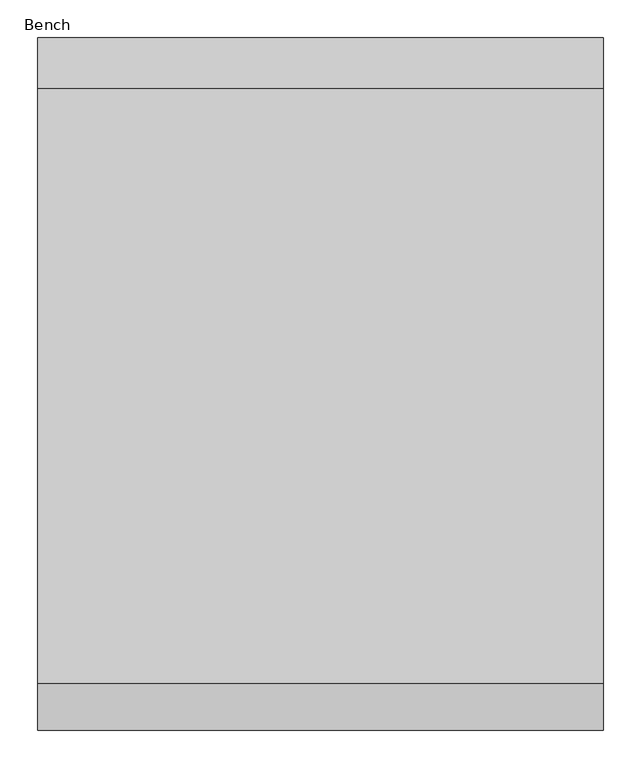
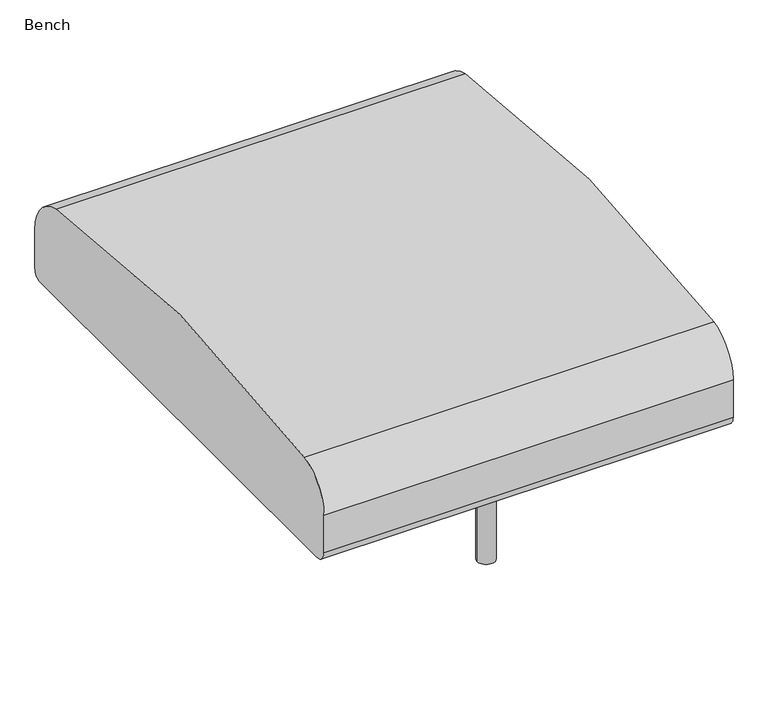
"""IFC4 building model written with IfcOpenShell, lengths in millimetres: furniture geometry, Coalesse_AM_Seating_LoungeChair_Sistema_LegBase_OneSeatConnector : Bench."""

from ifc_helpers import new_model, si_unit, point, frame, frame_2d, origin, origin_with_axes, place, context, project, spatial, polyline, circle_curve, trimmed, segment, composite_curve, outline, extrude, source, transform, mapped, element, save


def bench_6cfa080e(model_context):
    return source(origin(), model_context, "Body", "SweptSolid", [
        extrude(outline(composite_curve([segment(trimmed(circle_curve(frame_2d((0.0, 335.9943389)), 6.096), [point((-6.096, 335.9943389))], [point((6.096, 335.9943389))], False, "CARTESIAN"), True, "CONTINUOUS"), segment(trimmed(circle_curve(frame_2d((0.0, 335.9943389)), 6.096), [point((6.096, 335.9943389))], [point((-6.096, 335.9943389))], False, "CARTESIAN"), True, "CONTINUOUS")], self_intersect=False)), origin_with_axes(), (0.0, 0.0, 1.0), 4.3662291),
        extrude(outline(composite_curve([segment(trimmed(circle_curve(frame_2d((0.0, -327.2630889)), 6.096), [point((-6.096, -327.2630889))], [point((6.096, -327.2630889))], False, "CARTESIAN"), True, "CONTINUOUS"), segment(trimmed(circle_curve(frame_2d((0.0, -327.2630889)), 6.096), [point((6.096, -327.2630889))], [point((-6.096, -327.2630889))], False, "CARTESIAN"), True, "CONTINUOUS")], self_intersect=False)), origin_with_axes(), (0.0, 0.0, 1.0), 4.3662291),
        extrude(outline(composite_curve([segment(trimmed(circle_curve(frame_2d((157.0399209, -9.5318523)), 3.048), [point((157.0399209, -12.5798523))], [point((153.9919209, -9.5318523))], False, "CARTESIAN"), True, "CONTINUOUS"), segment(polyline([(153.9919209, -9.5318523), (153.9919209, 9.7252509)]), True, "CONTINUOUS"), segment(trimmed(circle_curve(frame_2d((157.1249936, 9.7252509)), 3.1330728), [point((153.9919209, 9.7252509))], [point((157.1249936, 12.8583237))], False, "CARTESIAN"), True, "CONTINUOUS"), segment(polyline([(157.1249936, 12.8583237), (201.7356243, 12.8583237)]), True, "CONTINUOUS"), segment(trimmed(circle_curve(frame_2d((201.7356243, 9.8103237)), 3.048), [point((201.7356243, 12.8583237))], [point((204.7836243, 9.8103237))], False, "CARTESIAN"), True, "CONTINUOUS"), segment(polyline([(204.7836243, 9.8103237), (204.7836243, -9.5318523)]), True, "CONTINUOUS"), segment(trimmed(circle_curve(frame_2d((201.7356243, -9.5318523)), 3.048), [point((204.7836243, -9.5318523))], [point((201.7356243, -12.5798523))], False, "CARTESIAN"), True, "CONTINUOUS"), segment(polyline([(201.7356243, -12.5798523), (157.0399209, -12.5798523)]), True, "CONTINUOUS")], self_intersect=False)), frame((0.0, 222.3519802, 0.0), z_axis=(0.0, 1.0, 0.0), x_axis=(0.0, 0.0, 1.0)), (0.0, 0.0, 1.0), 92.6273161),
        extrude(outline(composite_curve([segment(trimmed(circle_curve(frame_2d((157.0399209, -9.5318523)), 3.048), [point((157.0399209, -12.5798523))], [point((153.9919209, -9.5318523))], False, "CARTESIAN"), True, "CONTINUOUS"), segment(polyline([(153.9919209, -9.5318523), (153.9919209, 9.7252509)]), True, "CONTINUOUS"), segment(trimmed(circle_curve(frame_2d((157.1249936, 9.7252509)), 3.1330728), [point((153.9919209, 9.7252509))], [point((157.1249936, 12.8583237))], False, "CARTESIAN"), True, "CONTINUOUS"), segment(polyline([(157.1249936, 12.8583237), (201.7356243, 12.8583237)]), True, "CONTINUOUS"), segment(trimmed(circle_curve(frame_2d((201.7356243, 9.8103237)), 3.048), [point((201.7356243, 12.8583237))], [point((204.7836243, 9.8103237))], False, "CARTESIAN"), True, "CONTINUOUS"), segment(polyline([(204.7836243, 9.8103237), (204.7836243, -9.5318523)]), True, "CONTINUOUS"), segment(trimmed(circle_curve(frame_2d((201.7356243, -9.5318523)), 3.048), [point((204.7836243, -9.5318523))], [point((201.7356243, -12.5798523))], False, "CARTESIAN"), True, "CONTINUOUS"), segment(polyline([(201.7356243, -12.5798523), (157.0399209, -12.5798523)]), True, "CONTINUOUS")], self_intersect=False)), frame((0.0, -314.9792963, 0.0), z_axis=(0.0, 1.0, 0.0), x_axis=(0.0, 0.0, 1.0)), (0.0, 0.0, 1.0), 92.6273161),
        extrude(outline(composite_curve([segment(polyline([(179.3836606, 22.6505283), (179.3836606, -22.0535686)]), True, "CONTINUOUS"), segment(trimmed(circle_curve(frame_2d((176.3356606, -22.0535686)), 3.048), [point((179.3836606, -22.0535686))], [point((176.3356606, -25.1015686))], False, "CARTESIAN"), True, "CONTINUOUS"), segment(polyline([(176.3356606, -25.1015686), (157.056462, -25.1015686)]), True, "CONTINUOUS"), segment(trimmed(circle_curve(frame_2d((157.056462, -22.0370274)), 3.0645412), [point((157.056462, -25.1015686))], [point((153.9919209, -22.0370274))], False, "CARTESIAN"), True, "CONTINUOUS"), segment(polyline([(153.9919209, -22.0370274), (153.9919209, 22.6505283)]), True, "CONTINUOUS"), segment(trimmed(circle_curve(frame_2d((157.0399209, 22.6505283)), 3.048), [point((153.9919209, 22.6505283))], [point((157.0399209, 25.6985283))], False, "CARTESIAN"), True, "CONTINUOUS"), segment(polyline([(157.0399209, 25.6985283), (176.3356606, 25.6985283)]), True, "CONTINUOUS"), segment(trimmed(circle_curve(frame_2d((176.3356606, 22.6505283)), 3.048), [point((176.3356606, 25.6985283))], [point((179.3836606, 22.6505283))], False, "CARTESIAN"), True, "CONTINUOUS")], self_intersect=False)), frame((0.0, -222.3519802, 0.0), z_axis=(0.0, 1.0, 0.0), x_axis=(0.0, 0.0, 1.0)), (0.0, 0.0, 1.0), 444.7039604),
        extrude(outline(composite_curve([segment(trimmed(circle_curve(frame_2d((0.0, 332.3095741)), 16.51), [point((-16.51, 332.3095741))], [point((16.51, 332.3095741))], False, "CARTESIAN"), True, "CONTINUOUS"), segment(trimmed(circle_curve(frame_2d((0.0, 332.3095741)), 16.51), [point((16.51, 332.3095741))], [point((-16.51, 332.3095741))], False, "CARTESIAN"), True, "CONTINUOUS")], self_intersect=False)), frame((0.0, 0.0, 4.3662291), z_axis=(0.0, 0.0, 1.0), x_axis=(1.0, 0.0, 0.0)), (0.0, 0.0, 1.0), 200.1037709),
        extrude(outline(composite_curve([segment(trimmed(circle_curve(frame_2d((0.396875, -327.5470741)), 16.51), [point((-16.113125, -327.5470741))], [point((16.906875, -327.5470741))], False, "CARTESIAN"), True, "CONTINUOUS"), segment(trimmed(circle_curve(frame_2d((0.396875, -327.5470741)), 16.51), [point((16.906875, -327.5470741))], [point((-16.113125, -327.5470741))], False, "CARTESIAN"), True, "CONTINUOUS")], self_intersect=False)), frame((0.0, 0.0, 4.3662291), z_axis=(0.0, 0.0, 1.0), x_axis=(1.0, 0.0, 0.0)), (0.0, 0.0, 1.0), 200.1037709),
        extrude(outline(composite_curve([segment(trimmed(circle_curve(frame_2d((-438.9184381, 228.2277814)), 22.352), [point((-438.9184381, 205.8757814))], [point((-461.2704381, 228.2277814))], False, "CARTESIAN"), True, "CONTINUOUS"), segment(polyline([(-461.2704381, 228.2277814), (-461.2704381, 301.4421993)]), True, "CONTINUOUS"), segment(trimmed(circle_curve(frame_2d((-385.0704381, 301.4421993)), 76.2), [point((-461.2704381, 301.4421993))], [point((-398.9277015, 376.3716077))], False, "CARTESIAN"), True, "CONTINUOUS"), segment(trimmed(circle_curve(frame_2d((2.2103559, -1792.6740646)), 2205.8265729), [point((-398.9277015, 376.3716077))], [point((391.4981164, 378.5297281))], False, "CARTESIAN"), True, "CONTINUOUS"), segment(trimmed(circle_curve(frame_2d((376.9295619, 297.2754376)), 82.55), [point((391.4981164, 378.5297281))], [point((459.4795619, 297.2754376))], False, "CARTESIAN"), True, "CONTINUOUS"), segment(polyline([(459.4795619, 297.2754376), (459.4795619, 222.649157)]), True, "CONTINUOUS"), segment(trimmed(circle_curve(frame_2d((442.7061864, 222.649157)), 16.7733756), [point((459.4795619, 222.649157))], [point((442.7061864, 205.8757814))], False, "CARTESIAN"), True, "CONTINUOUS"), segment(polyline([(442.7061864, 205.8757814), (-438.9184381, 205.8757814)]), True, "CONTINUOUS")], self_intersect=False)), frame((-374.8034773, 0.0, 0.0), z_axis=(1.0, 0.0, 0.0), x_axis=(0.0, 1.0, 0.0)), (0.0, 0.0, 1.0), 752.2863161),
    ])


if __name__ == "__main__":
    model = new_model("IFC4")
    model_context = context("Model", 3, world=origin())
    ifc_project = project(units=[si_unit("LENGTHUNIT", "METRE", prefix="MILLI")], contexts=[model_context])
    site = spatial("IfcSite", under=ifc_project)
    building = spatial("IfcBuilding", under=site)
    placement = place(None, origin())
    bench_shape = bench_6cfa080e(model_context)
    element("IfcFurniture", 1, ObjectType="Coalesse_AM_Seating_LoungeChair_Sistema_LegBase_OneSeatConnector : Bench", at=placement, inside=building, context=model_context, shape_type="MappedRepresentation", body=[
        mapped(bench_shape, transform((0.0, 0.0, 0.0), x_axis=(1.0, 0.0, 0.0), y_axis=(0.0, 1.0, 0.0), z_axis=(0.0, 0.0, 1.0))),
    ])
    save(model, "model.ifc")
